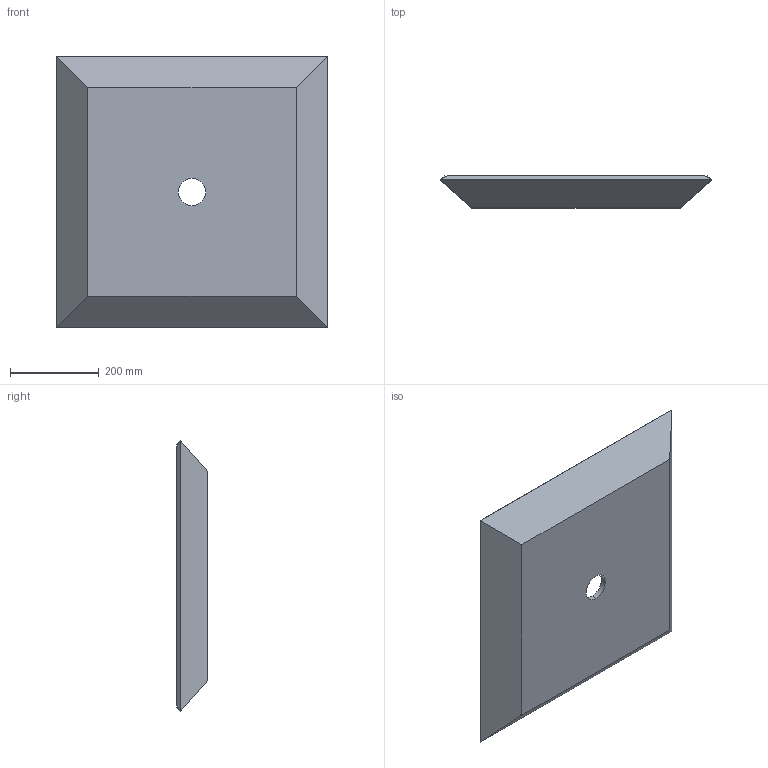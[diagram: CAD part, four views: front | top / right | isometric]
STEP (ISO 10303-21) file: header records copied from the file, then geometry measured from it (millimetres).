
FILE_DESCRIPTION (( 'STEP AP214' ), '1' );
FILE_NAME ('Spot Flood - Single - 3 In Deep Assembly - V5.STEP', '2022-08-02T15:27:54', ( '' ), ( '' ), 'SwSTEP 2.0', 'SolidWorks 2020', '' );
FILE_SCHEMA (( 'AUTOMOTIVE_DESIGN' ));
Length unit declared in the file: inch
Products named in the file (3): 3 In Deep Extruded Tile Side - V5; Spot Flood - Single - 3 In Deep Assembly - V5; Spot Flood - Single - 3 In Deep Top - V5
Assembly tree (5 placements, depth 2):
  Spot Flood - Single - 3 In Deep Assembly - V5
    Spot Flood - Single - 3 In Deep Top - V5
    3 In Deep Extruded Tile Side - V5  x4
Bounding box: 609.6 x 71.4 x 609.6 mm (x, y, z)
Volume: 4733367.2 mm3; surface area: 894007.7 mm2
Topology: 5 solids, 5 shells, 32 faces, 66 edges, 44 vertices
Faces by surface type: plane 30, cylinder 2
Entity records: 530 total; most frequent: DIRECTION 78, CARTESIAN_POINT 72, ORIENTED_EDGE 60, EDGE_CURVE 30, VECTOR 26, LINE 26, AXIS2_PLACEMENT_3D 26, VERTEX_POINT 20
